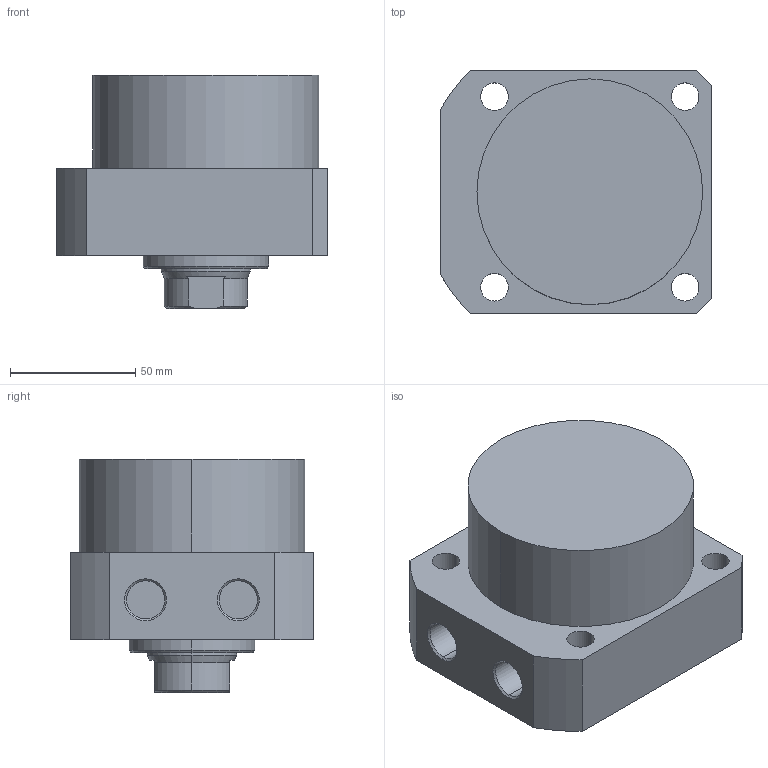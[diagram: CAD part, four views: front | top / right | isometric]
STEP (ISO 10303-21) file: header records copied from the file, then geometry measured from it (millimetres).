
FILE_DESCRIPTION (( 'STEP AP203' ), '1' );
FILE_NAME ('CLLR-090CA-015.STEP', '2019-12-19T02:12:12', ( '' ), ( '' ), 'SwSTEP 2.0', 'SolidWorks 2015', '' );
FILE_SCHEMA (( 'CONFIG_CONTROL_DESIGN' ));
Length unit declared in the file: millimetre
Products named in the file (1): CLLR-090CA-015
Bounding box: 108 x 97 x 93 mm (x, y, z)
Volume: 585647 mm3; surface area: 55524.1 mm2
Topology: 1 solids, 1 shells, 63 faces, 149 edges, 94 vertices
Faces by surface type: cylinder 29, plane 19, cone 15
Entity records: 1927 total; most frequent: DIRECTION 340, CARTESIAN_POINT 337, ORIENTED_EDGE 294, EDGE_CURVE 147, AXIS2_PLACEMENT_3D 137, VERTEX_POINT 94, EDGE_LOOP 79, CIRCLE 73
